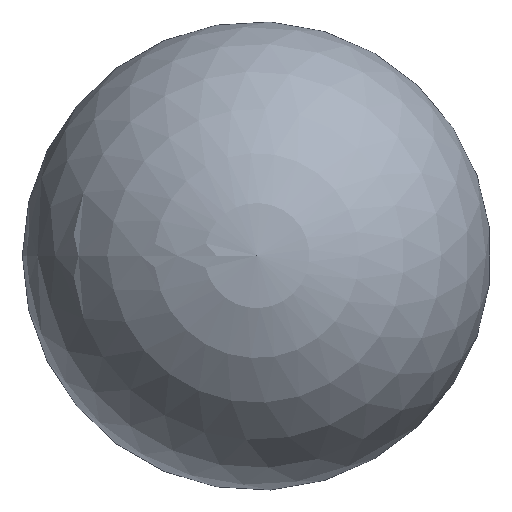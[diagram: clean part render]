
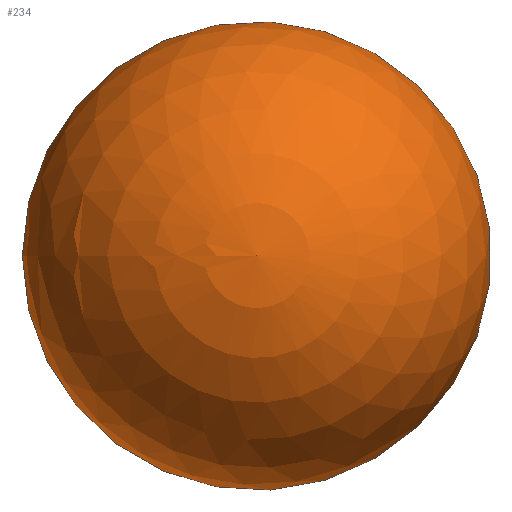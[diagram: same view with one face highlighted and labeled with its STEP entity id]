
A CAD part, top view. The second image highlights one B-rep face of the part: STEP entity #234.
In plain terms, the highlighted spherical face has radius 200 mm.
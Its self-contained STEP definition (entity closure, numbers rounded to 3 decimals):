
#20=SPHERICAL_SURFACE('',#298,200.);
#56=FACE_OUTER_BOUND('',#74,.T.);
#74=EDGE_LOOP('',(#214,#215,#216));
#109=CIRCLE('',#297,40.);
#110=CIRCLE('',#299,200.);
#128=VERTEX_POINT('',#453);
#129=VERTEX_POINT('',#457);
#157=EDGE_CURVE('',#128,#128,#109,.T.);
#158=EDGE_CURVE('',#129,#128,#110,.T.);
#214=ORIENTED_EDGE('',*,*,#157,.T.);
#215=ORIENTED_EDGE('',*,*,#158,.F.);
#216=ORIENTED_EDGE('',*,*,#158,.T.);
#234=ADVANCED_FACE('',(#56),#20,.T.);
#297=AXIS2_PLACEMENT_3D('',#455,#383,#384);
#298=AXIS2_PLACEMENT_3D('',#456,#385,#386);
#299=AXIS2_PLACEMENT_3D('',#458,#387,#388);
#383=DIRECTION('center_axis',(0.,0.,1.));
#384=DIRECTION('ref_axis',(1.,0.,0.));
#385=DIRECTION('center_axis',(0.,0.,1.));
#386=DIRECTION('ref_axis',(1.,0.,0.));
#387=DIRECTION('center_axis',(0.,-1.,0.));
#388=DIRECTION('ref_axis',(-1.,0.,0.));
#453=CARTESIAN_POINT('',(-40.,0.,0.));
#455=CARTESIAN_POINT('Origin',(0.,0.,0.));
#456=CARTESIAN_POINT('Origin',(0.,0.,195.959));
#457=CARTESIAN_POINT('',(0.,0.,395.959));
#458=CARTESIAN_POINT('Origin',(0.,0.,195.959));
